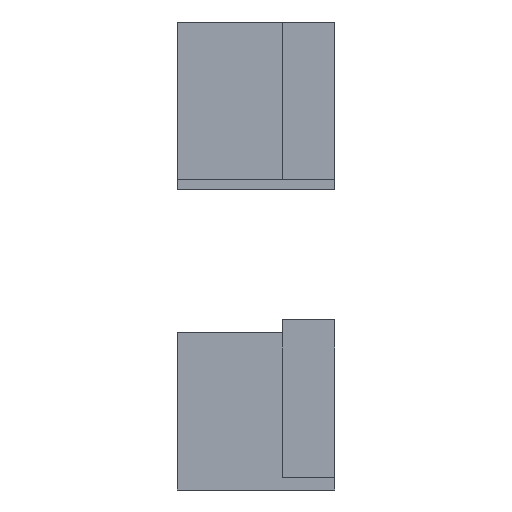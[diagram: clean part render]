
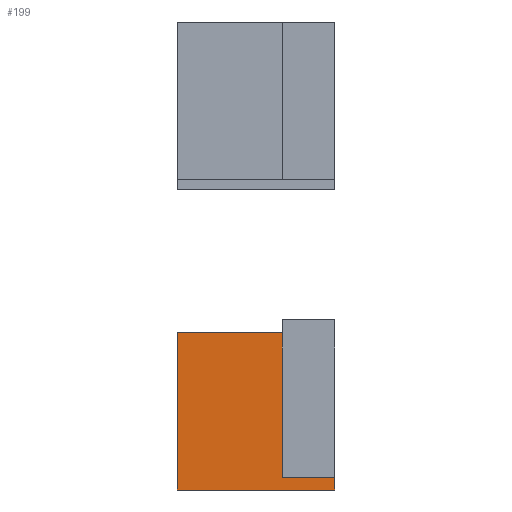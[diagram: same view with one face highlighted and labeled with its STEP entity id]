
A CAD part, left-side view. The second image highlights one B-rep face of the part: STEP entity #199.
In plain terms, the highlighted planar face has unit normal (-1, 0, 0).
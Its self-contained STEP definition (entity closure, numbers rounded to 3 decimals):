
#64 = VECTOR ( 'NONE', #380, 1000. ) ;
#97 = VECTOR ( 'NONE', #365, 1000. ) ;
#149 = VECTOR ( 'NONE', #714, 1000. ) ;
#166 = VERTEX_POINT ( 'NONE', #205 ) ;
#179 = ORIENTED_EDGE ( 'NONE', *, *, #458, .F. ) ;
#181 = VECTOR ( 'NONE', #947, 1000. ) ;
#199 = ADVANCED_FACE ( 'NONE', ( #913 ), #664, .F. ) ;
#205 = CARTESIAN_POINT ( 'NONE',  ( 666.923, 150., -369.382 ) ) ;
#223 = CARTESIAN_POINT ( 'NONE',  ( 666.923, 0., -219.382 ) ) ;
#230 = EDGE_LOOP ( 'NONE', ( #256, #179, #307, #929 ) ) ;
#248 = LINE ( 'NONE', #351, #181 ) ;
#253 = CARTESIAN_POINT ( 'NONE',  ( 666.923, 0., -369.382 ) ) ;
#256 = ORIENTED_EDGE ( 'NONE', *, *, #269, .T. ) ;
#269 = EDGE_CURVE ( 'NONE', #313, #908, #408, .T. ) ;
#307 = ORIENTED_EDGE ( 'NONE', *, *, #308, .F. ) ;
#308 = EDGE_CURVE ( 'NONE', #166, #999, #248, .T. ) ;
#313 = VERTEX_POINT ( 'NONE', #253 ) ;
#351 = CARTESIAN_POINT ( 'NONE',  ( 666.923, 150., -369.382 ) ) ;
#365 = DIRECTION ( 'NONE',  ( 0., -1., 0. ) ) ;
#380 = DIRECTION ( 'NONE',  ( 0., -1., 0. ) ) ;
#408 = LINE ( 'NONE', #425, #149 ) ;
#414 = EDGE_CURVE ( 'NONE', #166, #313, #851, .T. ) ;
#425 = CARTESIAN_POINT ( 'NONE',  ( 666.923, 0., -369.382 ) ) ;
#458 = EDGE_CURVE ( 'NONE', #999, #908, #750, .T. ) ;
#508 = CARTESIAN_POINT ( 'NONE',  ( 666.923, 150., -369.382 ) ) ;
#590 = DIRECTION ( 'NONE',  ( 0., 0., -1. ) ) ;
#664 = PLANE ( 'NONE',  #957 ) ;
#713 = CARTESIAN_POINT ( 'NONE',  ( 666.923, 150., -219.382 ) ) ;
#714 = DIRECTION ( 'NONE',  ( 0., 0., 1. ) ) ;
#750 = LINE ( 'NONE', #988, #64 ) ;
#816 = DIRECTION ( 'NONE',  ( 1., 0., 0. ) ) ;
#844 = CARTESIAN_POINT ( 'NONE',  ( 666.923, 150., -369.382 ) ) ;
#851 = LINE ( 'NONE', #844, #97 ) ;
#908 = VERTEX_POINT ( 'NONE', #223 ) ;
#913 = FACE_OUTER_BOUND ( 'NONE', #230, .T. ) ;
#929 = ORIENTED_EDGE ( 'NONE', *, *, #414, .T. ) ;
#947 = DIRECTION ( 'NONE',  ( 0., 0., 1. ) ) ;
#957 = AXIS2_PLACEMENT_3D ( 'NONE', #508, #816, #590 ) ;
#988 = CARTESIAN_POINT ( 'NONE',  ( 666.923, 150., -219.382 ) ) ;
#999 = VERTEX_POINT ( 'NONE', #713 ) ;
